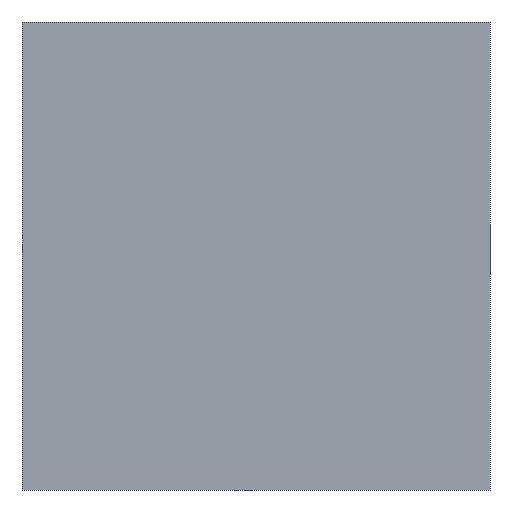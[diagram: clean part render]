
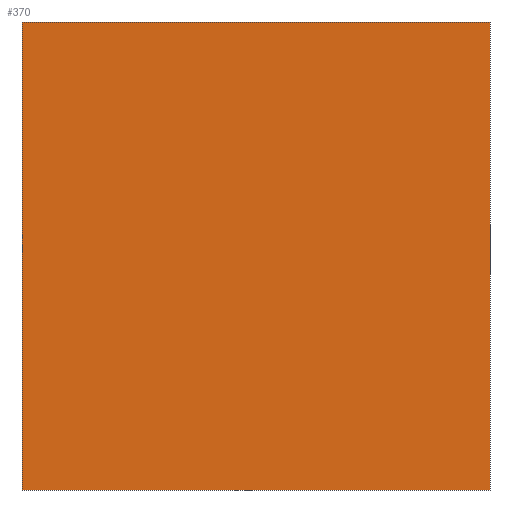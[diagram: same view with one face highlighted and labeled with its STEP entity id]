
A CAD part, front view. The second image highlights one B-rep face of the part: STEP entity #370.
In plain terms, the highlighted planar face has unit normal (0, -1, 0).
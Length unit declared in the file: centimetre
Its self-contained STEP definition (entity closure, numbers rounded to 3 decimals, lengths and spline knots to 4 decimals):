
#11 = VERTEX_POINT ( 'NONE', #343 ) ;
#17 = LINE ( 'NONE', #319, #53 ) ;
#24 = CARTESIAN_POINT ( 'NONE',  ( 0., 0., 1000. ) ) ;
#27 = VECTOR ( 'NONE', #185, 100. ) ;
#32 = EDGE_CURVE ( 'NONE', #112, #201, #17, .T. ) ;
#38 = VECTOR ( 'NONE', #346, 100. ) ;
#53 = VECTOR ( 'NONE', #469, 100. ) ;
#89 = DIRECTION ( 'NONE',  ( 0., 0., 1. ) ) ;
#92 = CARTESIAN_POINT ( 'NONE',  ( 0., 0., 1000. ) ) ;
#98 = CARTESIAN_POINT ( 'NONE',  ( 0., 0., 1000. ) ) ;
#112 = VERTEX_POINT ( 'NONE', #277 ) ;
#116 = CARTESIAN_POINT ( 'NONE',  ( 0., 0., 0. ) ) ;
#125 = LINE ( 'NONE', #376, #38 ) ;
#126 = VERTEX_POINT ( 'NONE', #24 ) ;
#131 = LINE ( 'NONE', #98, #296 ) ;
#146 = ORIENTED_EDGE ( 'NONE', *, *, #436, .F. ) ;
#185 = DIRECTION ( 'NONE',  ( 1., 0., 0. ) ) ;
#201 = VERTEX_POINT ( 'NONE', #404 ) ;
#204 = EDGE_CURVE ( 'NONE', #11, #201, #291, .T. ) ;
#218 = ORIENTED_EDGE ( 'NONE', *, *, #32, .F. ) ;
#236 = AXIS2_PLACEMENT_3D ( 'NONE', #92, #262, #89 ) ;
#237 = ORIENTED_EDGE ( 'NONE', *, *, #425, .T. ) ;
#262 = DIRECTION ( 'NONE',  ( 0., 1., 0. ) ) ;
#266 = FACE_OUTER_BOUND ( 'NONE', #379, .T. ) ;
#277 = CARTESIAN_POINT ( 'NONE',  ( 1000., 0., 1000. ) ) ;
#291 = LINE ( 'NONE', #116, #27 ) ;
#296 = VECTOR ( 'NONE', #383, 100. ) ;
#319 = CARTESIAN_POINT ( 'NONE',  ( 1000., 0., 1000. ) ) ;
#343 = CARTESIAN_POINT ( 'NONE',  ( 0., 0., 0. ) ) ;
#346 = DIRECTION ( 'NONE',  ( 0., 0., -1. ) ) ;
#370 = ADVANCED_FACE ( 'NONE', ( #266 ), #451, .F. ) ;
#376 = CARTESIAN_POINT ( 'NONE',  ( 0., 0., 1000. ) ) ;
#379 = EDGE_LOOP ( 'NONE', ( #416, #218, #146, #237 ) ) ;
#383 = DIRECTION ( 'NONE',  ( 1., 0., 0. ) ) ;
#404 = CARTESIAN_POINT ( 'NONE',  ( 1000., 0., 0. ) ) ;
#416 = ORIENTED_EDGE ( 'NONE', *, *, #204, .T. ) ;
#425 = EDGE_CURVE ( 'NONE', #126, #11, #125, .T. ) ;
#436 = EDGE_CURVE ( 'NONE', #126, #112, #131, .T. ) ;
#451 = PLANE ( 'NONE',  #236 ) ;
#469 = DIRECTION ( 'NONE',  ( 0., 0., -1. ) ) ;
